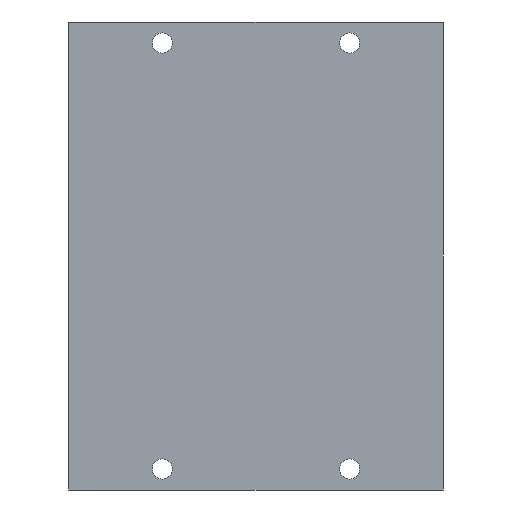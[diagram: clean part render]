
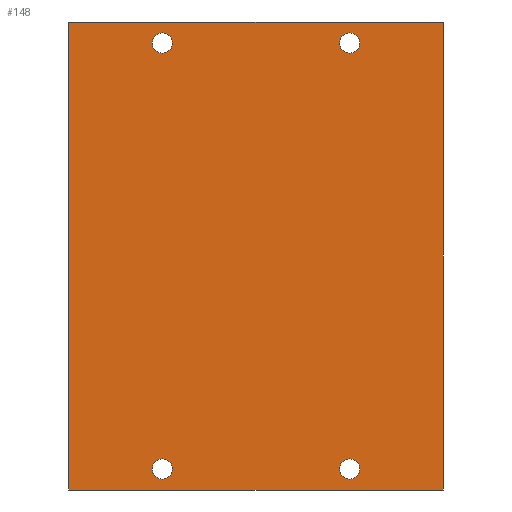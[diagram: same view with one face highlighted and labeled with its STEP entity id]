
A CAD part, front view. The second image highlights one B-rep face of the part: STEP entity #148.
In plain terms, the highlighted planar face has unit normal (0, -1, 0).
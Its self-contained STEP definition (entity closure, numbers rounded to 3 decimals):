
#2 = EDGE_LOOP ( 'NONE', ( #1173, #202, #586, #1078 ) ) ;
#5 = AXIS2_PLACEMENT_3D ( 'NONE', #1169, #1083, #608 ) ;
#10 = CIRCLE ( 'NONE', #1105, 2.15 ) ;
#12 = EDGE_CURVE ( 'NONE', #13, #1189, #1219, .T. ) ;
#13 = VERTEX_POINT ( 'NONE', #722 ) ;
#38 = DIRECTION ( 'NONE',  ( 0., 0., 1. ) ) ;
#48 = FACE_BOUND ( 'NONE', #435, .T. ) ;
#51 = EDGE_CURVE ( 'NONE', #875, #55, #10, .T. ) ;
#55 = VERTEX_POINT ( 'NONE', #727 ) ;
#58 = ORIENTED_EDGE ( 'NONE', *, *, #109, .T. ) ;
#109 = EDGE_CURVE ( 'NONE', #220, #484, #639, .T. ) ;
#110 = CARTESIAN_POINT ( 'NONE',  ( -20., 0., 47.65 ) ) ;
#111 = EDGE_CURVE ( 'NONE', #1189, #13, #846, .T. ) ;
#123 = CARTESIAN_POINT ( 'NONE',  ( 20., 0., -43.35 ) ) ;
#141 = EDGE_CURVE ( 'NONE', #599, #733, #654, .T. ) ;
#147 = CIRCLE ( 'NONE', #288, 2.15 ) ;
#148 = ADVANCED_FACE ( 'NONE', ( #1126, #1145, #48, #389, #242 ), #744, .T. ) ;
#166 = CARTESIAN_POINT ( 'NONE',  ( 20., 0., -45.5 ) ) ;
#167 = AXIS2_PLACEMENT_3D ( 'NONE', #1070, #1175, #38 ) ;
#170 = EDGE_CURVE ( 'NONE', #669, #709, #584, .T. ) ;
#175 = CARTESIAN_POINT ( 'NONE',  ( -40., 0., 50. ) ) ;
#187 = CARTESIAN_POINT ( 'NONE',  ( 20., 0., -45.5 ) ) ;
#193 = EDGE_CURVE ( 'NONE', #733, #669, #715, .T. ) ;
#202 = ORIENTED_EDGE ( 'NONE', *, *, #170, .F. ) ;
#220 = VERTEX_POINT ( 'NONE', #590 ) ;
#242 = FACE_OUTER_BOUND ( 'NONE', #2, .T. ) ;
#274 = CARTESIAN_POINT ( 'NONE',  ( 40., 0., 50. ) ) ;
#282 = CIRCLE ( 'NONE', #929, 2.15 ) ;
#288 = AXIS2_PLACEMENT_3D ( 'NONE', #980, #499, #420 ) ;
#292 = DIRECTION ( 'NONE',  ( 0., 0., -1. ) ) ;
#305 = DIRECTION ( 'NONE',  ( 0., 1., 0. ) ) ;
#306 = EDGE_CURVE ( 'NONE', #564, #913, #282, .T. ) ;
#333 = LINE ( 'NONE', #737, #562 ) ;
#354 = CARTESIAN_POINT ( 'NONE',  ( -20., 0., 45.5 ) ) ;
#357 = DIRECTION ( 'NONE',  ( 0., 0., 1. ) ) ;
#382 = CARTESIAN_POINT ( 'NONE',  ( 0., 0., 0. ) ) ;
#389 = FACE_BOUND ( 'NONE', #1064, .T. ) ;
#395 = EDGE_CURVE ( 'NONE', #484, #220, #147, .T. ) ;
#400 = VECTOR ( 'NONE', #679, 1000. ) ;
#420 = DIRECTION ( 'NONE',  ( 0., 0., 1. ) ) ;
#435 = EDGE_LOOP ( 'NONE', ( #1110, #888 ) ) ;
#443 = DIRECTION ( 'NONE',  ( 0., 1., 0. ) ) ;
#465 = EDGE_CURVE ( 'NONE', #913, #564, #594, .T. ) ;
#480 = CARTESIAN_POINT ( 'NONE',  ( 20., 0., 45.5 ) ) ;
#484 = VERTEX_POINT ( 'NONE', #609 ) ;
#499 = DIRECTION ( 'NONE',  ( 0., 1., 0. ) ) ;
#515 = EDGE_CURVE ( 'NONE', #709, #599, #333, .T. ) ;
#517 = CARTESIAN_POINT ( 'NONE',  ( -20., 0., -43.35 ) ) ;
#562 = VECTOR ( 'NONE', #618, 1000. ) ;
#564 = VERTEX_POINT ( 'NONE', #741 ) ;
#570 = CARTESIAN_POINT ( 'NONE',  ( -40., 0., -50. ) ) ;
#579 = CARTESIAN_POINT ( 'NONE',  ( -20., 0., -45.5 ) ) ;
#584 = LINE ( 'NONE', #837, #685 ) ;
#586 = ORIENTED_EDGE ( 'NONE', *, *, #193, .F. ) ;
#587 = DIRECTION ( 'NONE',  ( 0., 0., 1. ) ) ;
#590 = CARTESIAN_POINT ( 'NONE',  ( 20., 0., 47.65 ) ) ;
#594 = CIRCLE ( 'NONE', #167, 2.15 ) ;
#599 = VERTEX_POINT ( 'NONE', #804 ) ;
#608 = DIRECTION ( 'NONE',  ( 0., 0., 1. ) ) ;
#609 = CARTESIAN_POINT ( 'NONE',  ( 20., 0., 43.35 ) ) ;
#618 = DIRECTION ( 'NONE',  ( 0., 0., -1. ) ) ;
#639 = CIRCLE ( 'NONE', #1016, 2.15 ) ;
#654 = LINE ( 'NONE', #1213, #996 ) ;
#668 = CARTESIAN_POINT ( 'NONE',  ( -40., 0., 50. ) ) ;
#669 = VERTEX_POINT ( 'NONE', #668 ) ;
#679 = DIRECTION ( 'NONE',  ( 0., 0., 1. ) ) ;
#685 = VECTOR ( 'NONE', #1029, 1000. ) ;
#709 = VERTEX_POINT ( 'NONE', #274 ) ;
#715 = LINE ( 'NONE', #175, #400 ) ;
#722 = CARTESIAN_POINT ( 'NONE',  ( 20., 0., -47.65 ) ) ;
#727 = CARTESIAN_POINT ( 'NONE',  ( -20., 0., 43.35 ) ) ;
#733 = VERTEX_POINT ( 'NONE', #570 ) ;
#737 = CARTESIAN_POINT ( 'NONE',  ( 40., 0., 50. ) ) ;
#741 = CARTESIAN_POINT ( 'NONE',  ( -20., 0., -47.65 ) ) ;
#744 = PLANE ( 'NONE',  #814 ) ;
#760 = CIRCLE ( 'NONE', #5, 2.15 ) ;
#801 = EDGE_LOOP ( 'NONE', ( #58, #1111 ) ) ;
#804 = CARTESIAN_POINT ( 'NONE',  ( 40., 0., -50. ) ) ;
#814 = AXIS2_PLACEMENT_3D ( 'NONE', #382, #937, #292 ) ;
#837 = CARTESIAN_POINT ( 'NONE',  ( -40., 0., 50. ) ) ;
#846 = CIRCLE ( 'NONE', #1084, 2.15 ) ;
#847 = ORIENTED_EDGE ( 'NONE', *, *, #111, .T. ) ;
#850 = DIRECTION ( 'NONE',  ( 0., 0., 1. ) ) ;
#854 = ORIENTED_EDGE ( 'NONE', *, *, #306, .T. ) ;
#875 = VERTEX_POINT ( 'NONE', #110 ) ;
#888 = ORIENTED_EDGE ( 'NONE', *, *, #988, .T. ) ;
#913 = VERTEX_POINT ( 'NONE', #517 ) ;
#929 = AXIS2_PLACEMENT_3D ( 'NONE', #579, #305, #587 ) ;
#937 = DIRECTION ( 'NONE',  ( 0., -1., 0. ) ) ;
#940 = DIRECTION ( 'NONE',  ( 0., 0., 1. ) ) ;
#957 = EDGE_LOOP ( 'NONE', ( #847, #1232 ) ) ;
#980 = CARTESIAN_POINT ( 'NONE',  ( 20., 0., 45.5 ) ) ;
#988 = EDGE_CURVE ( 'NONE', #55, #875, #760, .T. ) ;
#996 = VECTOR ( 'NONE', #1026, 1000. ) ;
#1016 = AXIS2_PLACEMENT_3D ( 'NONE', #480, #1225, #940 ) ;
#1026 = DIRECTION ( 'NONE',  ( -1., 0., 0. ) ) ;
#1029 = DIRECTION ( 'NONE',  ( 1., 0., 0. ) ) ;
#1064 = EDGE_LOOP ( 'NONE', ( #1181, #854 ) ) ;
#1070 = CARTESIAN_POINT ( 'NONE',  ( -20., 0., -45.5 ) ) ;
#1078 = ORIENTED_EDGE ( 'NONE', *, *, #141, .F. ) ;
#1083 = DIRECTION ( 'NONE',  ( 0., 1., 0. ) ) ;
#1084 = AXIS2_PLACEMENT_3D ( 'NONE', #187, #1118, #850 ) ;
#1103 = DIRECTION ( 'NONE',  ( 0., 1., 0. ) ) ;
#1105 = AXIS2_PLACEMENT_3D ( 'NONE', #354, #1103, #357 ) ;
#1110 = ORIENTED_EDGE ( 'NONE', *, *, #51, .T. ) ;
#1111 = ORIENTED_EDGE ( 'NONE', *, *, #395, .T. ) ;
#1112 = DIRECTION ( 'NONE',  ( 0., 0., 1. ) ) ;
#1118 = DIRECTION ( 'NONE',  ( 0., 1., 0. ) ) ;
#1126 = FACE_BOUND ( 'NONE', #801, .T. ) ;
#1145 = FACE_BOUND ( 'NONE', #957, .T. ) ;
#1148 = AXIS2_PLACEMENT_3D ( 'NONE', #166, #443, #1112 ) ;
#1169 = CARTESIAN_POINT ( 'NONE',  ( -20., 0., 45.5 ) ) ;
#1173 = ORIENTED_EDGE ( 'NONE', *, *, #515, .F. ) ;
#1175 = DIRECTION ( 'NONE',  ( 0., 1., 0. ) ) ;
#1181 = ORIENTED_EDGE ( 'NONE', *, *, #465, .T. ) ;
#1189 = VERTEX_POINT ( 'NONE', #123 ) ;
#1213 = CARTESIAN_POINT ( 'NONE',  ( -40., 0., -50. ) ) ;
#1219 = CIRCLE ( 'NONE', #1148, 2.15 ) ;
#1225 = DIRECTION ( 'NONE',  ( 0., 1., 0. ) ) ;
#1232 = ORIENTED_EDGE ( 'NONE', *, *, #12, .T. ) ;
